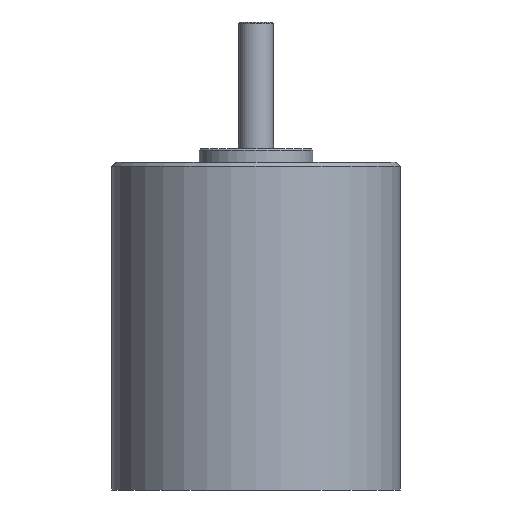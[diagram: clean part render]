
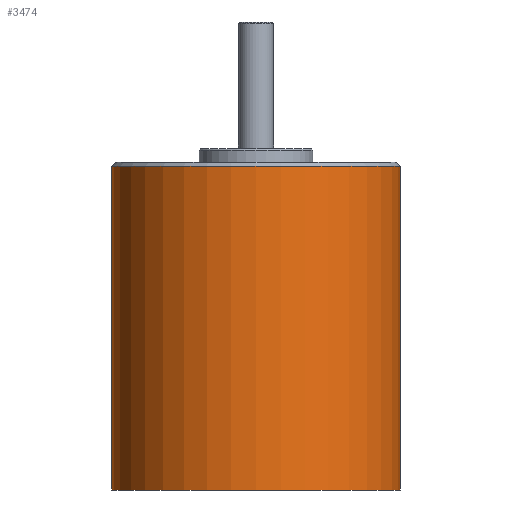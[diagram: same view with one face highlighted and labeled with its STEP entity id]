
A CAD part, front view. The second image highlights one B-rep face of the part: STEP entity #3474.
In plain terms, the highlighted cylindrical face has radius 16.5 mm (diameter 33 mm), a partial arc.
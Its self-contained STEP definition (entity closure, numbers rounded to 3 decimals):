
#861 = CIRCLE ( 'NONE', #902, 16.5 ) ;
#870 = CARTESIAN_POINT ( 'NONE',  ( 0., 0., -0.5 ) ) ;
#900 = DIRECTION ( 'NONE',  ( 1., 0., 0. ) ) ;
#901 = DIRECTION ( 'NONE',  ( 0., 0., -1. ) ) ;
#902 = AXIS2_PLACEMENT_3D ( 'NONE', #870, #901, #900 ) ;
#972 = FACE_OUTER_BOUND ( 'NONE', #3461, .T. ) ;
#1058 = LINE ( 'NONE', #1099, #1067 ) ;
#1067 = VECTOR ( 'NONE', #1101, 1000. ) ;
#1072 = DIRECTION ( 'NONE',  ( 1., 0., 0. ) ) ;
#1083 = AXIS2_PLACEMENT_3D ( 'NONE', #1102, #1107, #1072 ) ;
#1084 = CARTESIAN_POINT ( 'NONE',  ( 16.5, 0., -37.45 ) ) ;
#1095 = CYLINDRICAL_SURFACE ( 'NONE', #1083, 16.5 ) ;
#1099 = CARTESIAN_POINT ( 'NONE',  ( 16.5, 0., -37.45 ) ) ;
#1101 = DIRECTION ( 'NONE',  ( 0., 0., 1. ) ) ;
#1102 = CARTESIAN_POINT ( 'NONE',  ( 0., 0., -37.45 ) ) ;
#1107 = DIRECTION ( 'NONE',  ( 0., 0., 1. ) ) ;
#1284 = VECTOR ( 'NONE', #1296, 1000. ) ;
#1285 = LINE ( 'NONE', #1297, #1284 ) ;
#1296 = DIRECTION ( 'NONE',  ( 0., 0., 1. ) ) ;
#1297 = CARTESIAN_POINT ( 'NONE',  ( -16.5, 0., -37.45 ) ) ;
#1398 = CIRCLE ( 'NONE', #1408, 16.5 ) ;
#1407 = DIRECTION ( 'NONE',  ( 1., 0., 0. ) ) ;
#1408 = AXIS2_PLACEMENT_3D ( 'NONE', #1436, #1455, #1407 ) ;
#1425 = CARTESIAN_POINT ( 'NONE',  ( -16.5, 0., -37.45 ) ) ;
#1436 = CARTESIAN_POINT ( 'NONE',  ( 0., 0., -37.45 ) ) ;
#1455 = DIRECTION ( 'NONE',  ( 0., 0., 1. ) ) ;
#2632 = CARTESIAN_POINT ( 'NONE',  ( 16.5, 0., -0.5 ) ) ;
#2698 = CARTESIAN_POINT ( 'NONE',  ( -16.5, 0., -0.5 ) ) ;
#3420 = EDGE_CURVE ( 'NONE', #4145, #4119, #861, .T. ) ;
#3451 = ORIENTED_EDGE ( 'NONE', *, *, #3529, .F. ) ;
#3453 = ORIENTED_EDGE ( 'NONE', *, *, #3420, .T. ) ;
#3461 = EDGE_LOOP ( 'NONE', ( #3451, #3473, #3463, #3453 ) ) ;
#3463 = ORIENTED_EDGE ( 'NONE', *, *, #3475, .T. ) ;
#3473 = ORIENTED_EDGE ( 'NONE', *, *, #3507, .T. ) ;
#3474 = ADVANCED_FACE ( 'NONE', ( #972 ), #1095, .T. ) ;
#3475 = EDGE_CURVE ( 'NONE', #3480, #4145, #1058, .T. ) ;
#3480 = VERTEX_POINT ( 'NONE', #1084 ) ;
#3507 = EDGE_CURVE ( 'NONE', #3511, #3480, #1398, .T. ) ;
#3511 = VERTEX_POINT ( 'NONE', #1425 ) ;
#3529 = EDGE_CURVE ( 'NONE', #3511, #4119, #1285, .T. ) ;
#4119 = VERTEX_POINT ( 'NONE', #2698 ) ;
#4145 = VERTEX_POINT ( 'NONE', #2632 ) ;
